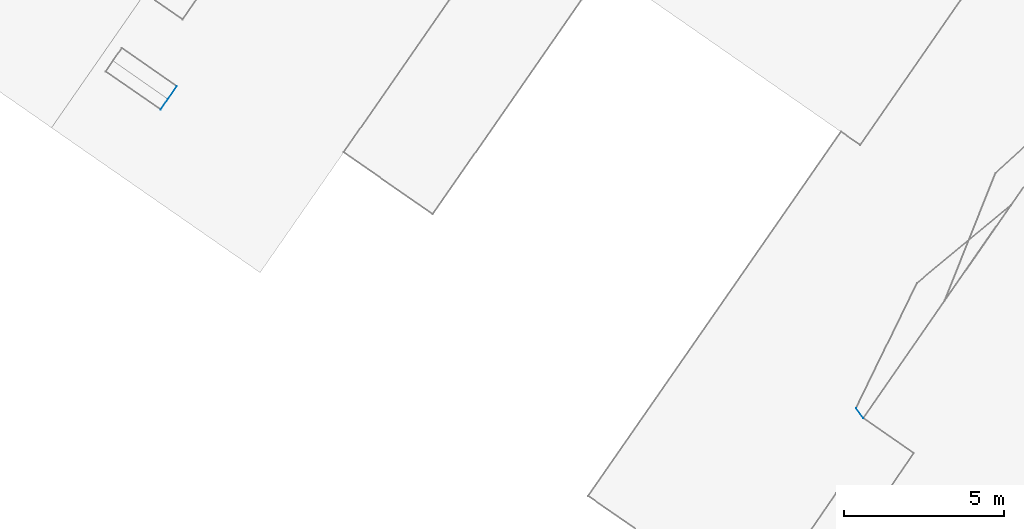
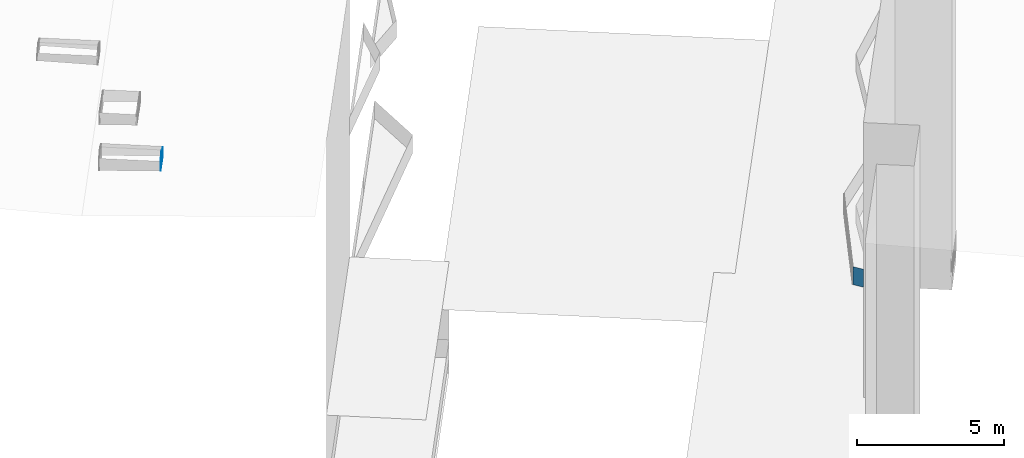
# Not in any storey, part 84 of 136: 4 walls.
"""IFC4 building model written with IfcOpenShell, lengths in metres."""

from ifc_helpers import new_model, entity, si_unit, converted_unit, frame, origin, place, context, subcontext, project, spatial, face_set, surface_model, element, save


model = new_model("IFC4")

# Units and contexts
model_context = context("Model", 3, precision=1e-05, world=origin())
body_context = subcontext(model_context, "Body", "Model", "MODEL_VIEW")
ifc_project = project(units=[converted_unit("PLANEANGLEUNIT", "DEGREE", entity("IfcRatioMeasure", 0.0174532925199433), si_unit("PLANEANGLEUNIT", "RADIAN"), dimensions=[0, 0, 0, 0, 0, 0, 0]), si_unit("AREAUNIT", "SQUARE_METRE"), si_unit("LENGTHUNIT", "METRE")], contexts=[model_context])

# Site, building
site_placement = place(None, origin())
site = spatial("IfcSite", under=ifc_project, at=site_placement, Name="_site")
building_1_placement = place(site_placement, origin())
building_1 = spatial("IfcBuilding", under=site, at=building_1_placement, Name="_building")

# Walls
for number, where, name in (
    (1, (0.0, 0.0, 0.0), "Wall"),
    (2, (0.0, 0.0, 0.0), "Wall"),
):
    element("IfcWall", number, at=place(building_1_placement, frame(where)), inside=building_1, Name=name, PredefinedType="NOTDEFINED", context=body_context, shape_type="SurfaceModel", body=[
        surface_model("IfcFaceBasedSurfaceModel", [(-28.62, 46.55, 47.1), (-28.85, 46.86, 47.1), (-28.85, 46.86, 47.85), (-28.62, 46.55, 47.85)], [face_set([[[0, 1, 2, 3]]])]),
    ])

# Building
building_2_placement = place(site_placement, origin())
building_2 = spatial("IfcBuilding", under=site, at=building_2_placement, Name="_building")

# Walls
wall_1_placement = place(building_2_placement, origin())
element("IfcWall", 3, at=wall_1_placement, inside=building_2, Name="Wall", PredefinedType="NOTDEFINED", context=body_context, shape_type="SurfaceModel", body=[
    surface_model("IfcFaceBasedSurfaceModel", [(-50.42, 56.55, 54.37), (-50.65, 56.22, 54.18), (-50.65, 56.22, 53.771), (-50.42, 56.55, 53.771)], [face_set([[[0, 1, 2, 3]]])]),
])
wall_2_placement = place(building_2_placement, origin())
element("IfcWall", 4, at=wall_2_placement, inside=building_2, Name="Wall", PredefinedType="NOTDEFINED", context=body_context, shape_type="SurfaceModel", body=[
    surface_model("IfcFaceBasedSurfaceModel", [(-50.14, 56.95, 54.18), (-50.42, 56.55, 54.37), (-50.42, 56.55, 53.771), (-50.14, 56.95, 53.771)], [face_set([[[0, 1, 2, 3]]])]),
])

save(model, "model.ifc")
